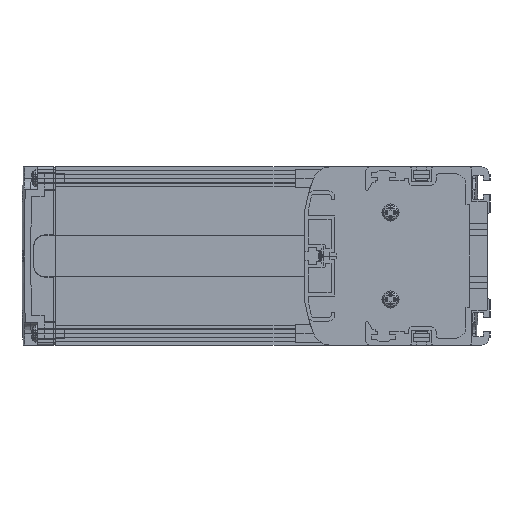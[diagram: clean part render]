
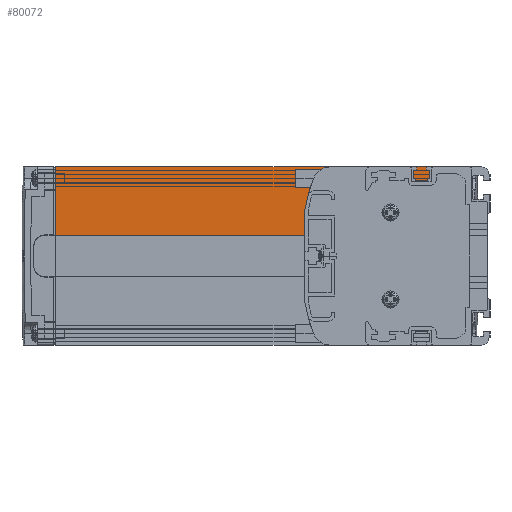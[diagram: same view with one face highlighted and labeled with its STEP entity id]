
A CAD part, left-side view. The second image highlights one B-rep face of the part: STEP entity #80072.
In plain terms, the highlighted planar face has unit normal (-1, 0, 0).
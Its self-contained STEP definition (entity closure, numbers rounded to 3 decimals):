
#78013=DIRECTION('',(0.,-1.,0.));
#78014=VECTOR('',#78013,51.);
#78015=CARTESIAN_POINT('',(3.,71.,27.));
#78016=LINE('',#78015,#78014);
#78662=DIRECTION('',(0.,-1.,0.));
#78663=VECTOR('',#78662,170.);
#78664=CARTESIAN_POINT('',(3.,190.,39.));
#78665=LINE('',#78664,#78663);
#78680=DIRECTION('',(0.,0.,-1.));
#78681=VECTOR('',#78680,29.9);
#78682=CARTESIAN_POINT('',(3.,190.,39.));
#78683=LINE('',#78682,#78681);
#78684=DIRECTION('',(0.,0.,1.));
#78685=VECTOR('',#78684,12.);
#78686=CARTESIAN_POINT('',(3.,20.,27.));
#78687=LINE('',#78686,#78685);
#78688=DIRECTION('',(0.,0.,1.));
#78689=VECTOR('',#78688,17.9);
#78690=CARTESIAN_POINT('',(3.,71.,9.1));
#78691=LINE('',#78690,#78689);
#78798=DIRECTION('',(0.,-1.,0.));
#78799=VECTOR('',#78798,119.);
#78800=CARTESIAN_POINT('',(3.,190.,9.1));
#78801=LINE('',#78800,#78799);
#78885=CARTESIAN_POINT('',(3.,20.,27.));
#78887=VERTEX_POINT('',#78885);
#78979=CARTESIAN_POINT('',(3.,20.,39.));
#78980=VERTEX_POINT('',#78979);
#79053=CARTESIAN_POINT('',(3.,190.,39.));
#79054=VERTEX_POINT('',#79053);
#79055=CARTESIAN_POINT('',(3.,190.,9.1));
#79056=VERTEX_POINT('',#79055);
#79117=CARTESIAN_POINT('',(3.,71.,27.));
#79118=VERTEX_POINT('',#79117);
#79119=CARTESIAN_POINT('',(3.,71.,9.1));
#79120=VERTEX_POINT('',#79119);
#80057=CARTESIAN_POINT('',(3.,105.,24.05));
#80058=DIRECTION('',(1.,0.,0.));
#80059=DIRECTION('',(0.,0.,1.));
#80060=AXIS2_PLACEMENT_3D('',#80057,#80058,#80059);
#80061=PLANE('',#80060);
#80062=ORIENTED_EDGE('',*,*,#79303,.F.);
#80064=ORIENTED_EDGE('',*,*,#80063,.F.);
#80066=ORIENTED_EDGE('',*,*,#80065,.F.);
#80067=ORIENTED_EDGE('',*,*,#79631,.F.);
#80068=ORIENTED_EDGE('',*,*,#80045,.T.);
#80069=ORIENTED_EDGE('',*,*,#79172,.F.);
#80070=EDGE_LOOP('',(#80062,#80064,#80066,#80067,#80068,#80069));
#80071=FACE_OUTER_BOUND('',#80070,.F.);
#80072=ADVANCED_FACE('',(#80071),#80061,.F.);
#79172=EDGE_CURVE('',#78887,#78980,#78687,.T.);
#79303=EDGE_CURVE('',#79118,#78887,#78016,.T.);
#79631=EDGE_CURVE('',#79054,#79056,#78683,.T.);
#80045=EDGE_CURVE('',#79054,#78980,#78665,.T.);
#80063=EDGE_CURVE('',#79120,#79118,#78691,.T.);
#80065=EDGE_CURVE('',#79056,#79120,#78801,.T.);
